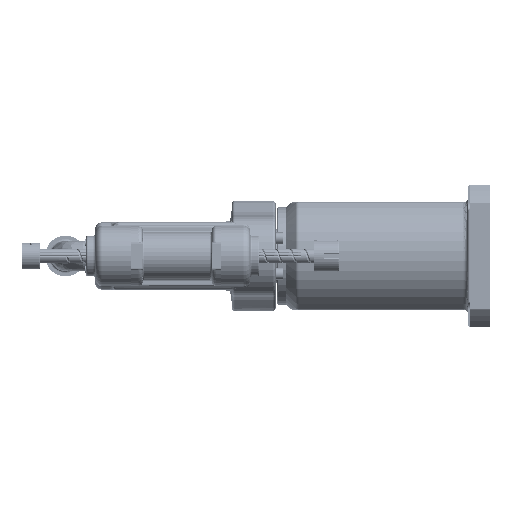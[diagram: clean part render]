
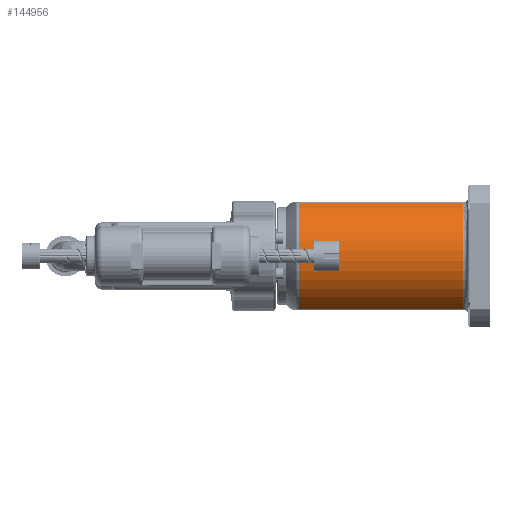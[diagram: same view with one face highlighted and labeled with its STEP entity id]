
A CAD part, left-side view. The second image highlights one B-rep face of the part: STEP entity #144956.
In plain terms, the highlighted cylindrical face has radius 67.5 mm (diameter 135 mm), a partial arc.
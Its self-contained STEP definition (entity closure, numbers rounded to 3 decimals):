
#3414 = CARTESIAN_POINT ( 'NONE',  ( 0., 230., 0. ) ) ;
#4047 = CARTESIAN_POINT ( 'NONE',  ( 0., 30., 0. ) ) ;
#6611 = FACE_OUTER_BOUND ( 'NONE', #72081, .T. ) ;
#7860 = VERTEX_POINT ( 'NONE', #145722 ) ;
#11333 = AXIS2_PLACEMENT_3D ( 'NONE', #13799, #39649, #103754 ) ;
#13713 = VECTOR ( 'NONE', #96947, 1000. ) ;
#13799 = CARTESIAN_POINT ( 'NONE',  ( 0., 215.929, 0. ) ) ;
#19346 = CARTESIAN_POINT ( 'NONE',  ( -31.108, 230., -59.904 ) ) ;
#22996 = EDGE_CURVE ( 'NONE', #35366, #7860, #108459, .T. ) ;
#29328 = EDGE_CURVE ( 'NONE', #7860, #106560, #160681, .T. ) ;
#31837 = CARTESIAN_POINT ( 'NONE',  ( -31.108, 30., -59.904 ) ) ;
#35366 = VERTEX_POINT ( 'NONE', #80853 ) ;
#39649 = DIRECTION ( 'NONE',  ( 0., -1., 0. ) ) ;
#44049 = CIRCLE ( 'NONE', #86640, 67.5 ) ;
#67061 = AXIS2_PLACEMENT_3D ( 'NONE', #3414, #118115, #145152 ) ;
#67161 = DIRECTION ( 'NONE',  ( 0., 1., 0. ) ) ;
#68856 = CARTESIAN_POINT ( 'NONE',  ( -31.108, 230., 59.904 ) ) ;
#72081 = EDGE_LOOP ( 'NONE', ( #109584, #129618, #143114, #91081 ) ) ;
#80853 = CARTESIAN_POINT ( 'NONE',  ( -31.108, 215.929, 59.904 ) ) ;
#81147 = DIRECTION ( 'NONE',  ( 1., 0., 0. ) ) ;
#85226 = CARTESIAN_POINT ( 'NONE',  ( -31.108, 30., 59.904 ) ) ;
#86640 = AXIS2_PLACEMENT_3D ( 'NONE', #4047, #67161, #81147 ) ;
#91081 = ORIENTED_EDGE ( 'NONE', *, *, #160392, .T. ) ;
#96947 = DIRECTION ( 'NONE',  ( 0., -1., 0. ) ) ;
#103313 = VERTEX_POINT ( 'NONE', #85226 ) ;
#103754 = DIRECTION ( 'NONE',  ( -1., 0., 0. ) ) ;
#106560 = VERTEX_POINT ( 'NONE', #31837 ) ;
#108459 = CIRCLE ( 'NONE', #11333, 67.5 ) ;
#109584 = ORIENTED_EDGE ( 'NONE', *, *, #22996, .T. ) ;
#117318 = CYLINDRICAL_SURFACE ( 'NONE', #67061, 67.5 ) ;
#118115 = DIRECTION ( 'NONE',  ( 0., 1., 0. ) ) ;
#123266 = EDGE_CURVE ( 'NONE', #106560, #103313, #44049, .T. ) ;
#129618 = ORIENTED_EDGE ( 'NONE', *, *, #29328, .T. ) ;
#132866 = DIRECTION ( 'NONE',  ( 0., 1., 0. ) ) ;
#143114 = ORIENTED_EDGE ( 'NONE', *, *, #123266, .T. ) ;
#144337 = VECTOR ( 'NONE', #132866, 1000. ) ;
#144956 = ADVANCED_FACE ( 'NONE', ( #6611 ), #117318, .T. ) ;
#145152 = DIRECTION ( 'NONE',  ( -1., 0., 0. ) ) ;
#145722 = CARTESIAN_POINT ( 'NONE',  ( -31.108, 215.929, -59.904 ) ) ;
#160392 = EDGE_CURVE ( 'NONE', #103313, #35366, #166636, .T. ) ;
#160681 = LINE ( 'NONE', #19346, #13713 ) ;
#166636 = LINE ( 'NONE', #68856, #144337 ) ;
